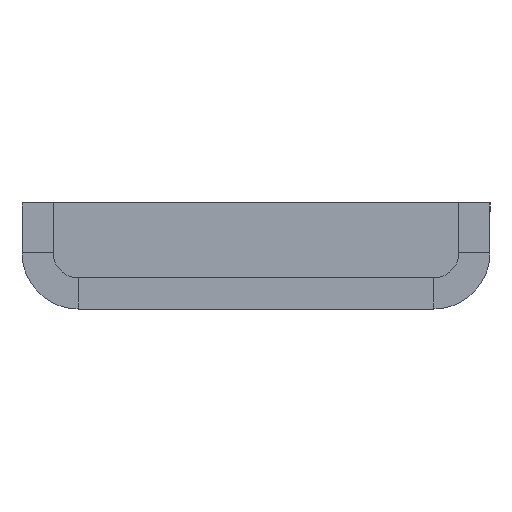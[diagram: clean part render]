
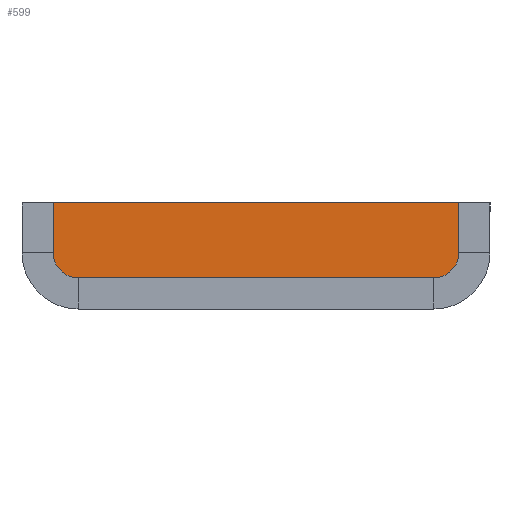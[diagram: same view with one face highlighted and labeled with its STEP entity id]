
A CAD part, left-side view. The second image highlights one B-rep face of the part: STEP entity #599.
In plain terms, the highlighted planar face has unit normal (-1, 0, 0).
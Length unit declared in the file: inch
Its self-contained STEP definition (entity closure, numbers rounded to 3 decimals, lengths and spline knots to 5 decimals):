
#58 = ORIENTED_EDGE ( 'NONE', *, *, #288, .F. ) ;
#68 = CARTESIAN_POINT ( 'NONE',  ( -5.125, -0.65, 0.24 ) ) ;
#104 = DIRECTION ( 'NONE',  ( 0., -1., 0. ) ) ;
#109 = CARTESIAN_POINT ( 'NONE',  ( -5.125, 0.65, 0.24 ) ) ;
#150 = CARTESIAN_POINT ( 'NONE',  ( -5.125, -0.65, -10.33211 ) ) ;
#155 = FACE_OUTER_BOUND ( 'NONE', #357, .T. ) ;
#198 = AXIS2_PLACEMENT_3D ( 'NONE', #790, #360, #426 ) ;
#216 = VECTOR ( 'NONE', #752, 39.37008 ) ;
#246 = CARTESIAN_POINT ( 'NONE',  ( -5.125, 0.65, 0.24 ) ) ;
#256 = ORIENTED_EDGE ( 'NONE', *, *, #627, .T. ) ;
#280 = VERTEX_POINT ( 'NONE', #109 ) ;
#283 = CARTESIAN_POINT ( 'NONE',  ( -5.125, 0.65, 0. ) ) ;
#287 = VECTOR ( 'NONE', #866, 39.37008 ) ;
#288 = EDGE_CURVE ( 'NONE', #507, #280, #597, .T. ) ;
#342 = EDGE_CURVE ( 'NONE', #280, #532, #681, .T. ) ;
#357 = EDGE_LOOP ( 'NONE', ( #743, #58, #256, #626 ) ) ;
#358 = CARTESIAN_POINT ( 'NONE',  ( -5.125, 0.65, 0. ) ) ;
#360 = DIRECTION ( 'NONE',  ( -1., 0., 0. ) ) ;
#388 = VERTEX_POINT ( 'NONE', #761 ) ;
#426 = DIRECTION ( 'NONE',  ( 0., 0., 1. ) ) ;
#507 = VERTEX_POINT ( 'NONE', #283 ) ;
#532 = VERTEX_POINT ( 'NONE', #68 ) ;
#534 = CARTESIAN_POINT ( 'NONE',  ( -5.125, 0.65, -10.33211 ) ) ;
#592 = DIRECTION ( 'NONE',  ( 0., -1., 0. ) ) ;
#595 = EDGE_CURVE ( 'NONE', #388, #532, #724, .T. ) ;
#597 = LINE ( 'NONE', #534, #216 ) ;
#599 = ADVANCED_FACE ( 'NONE', ( #155 ), #862, .T. ) ;
#626 = ORIENTED_EDGE ( 'NONE', *, *, #595, .T. ) ;
#627 = EDGE_CURVE ( 'NONE', #507, #388, #640, .T. ) ;
#640 = LINE ( 'NONE', #358, #894 ) ;
#681 = LINE ( 'NONE', #246, #806 ) ;
#724 = LINE ( 'NONE', #150, #287 ) ;
#743 = ORIENTED_EDGE ( 'NONE', *, *, #342, .F. ) ;
#752 = DIRECTION ( 'NONE',  ( 0., 0., 1. ) ) ;
#761 = CARTESIAN_POINT ( 'NONE',  ( -5.125, -0.65, 0. ) ) ;
#790 = CARTESIAN_POINT ( 'NONE',  ( -5.125, 0.65, -10.33211 ) ) ;
#806 = VECTOR ( 'NONE', #104, 39.37008 ) ;
#862 = PLANE ( 'NONE',  #198 ) ;
#866 = DIRECTION ( 'NONE',  ( 0., 0., 1. ) ) ;
#894 = VECTOR ( 'NONE', #592, 39.37008 ) ;
